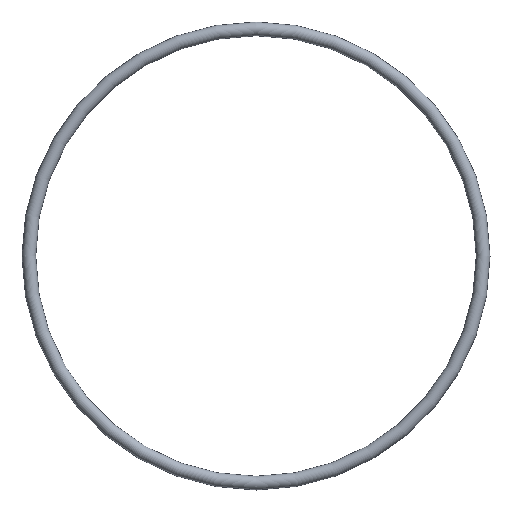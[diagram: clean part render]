
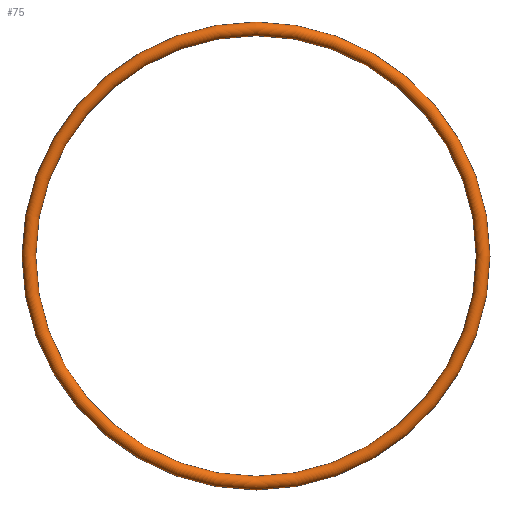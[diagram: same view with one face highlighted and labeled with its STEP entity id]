
A CAD part, front view. The second image highlights one B-rep face of the part: STEP entity #75.
In plain terms, the highlighted toroidal (fillet/blend) face has major radius 33 mm and minor radius 1 mm.
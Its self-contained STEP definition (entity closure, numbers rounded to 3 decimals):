
#75 = ADVANCED_FACE( '', ( #77 ), #78, .T. );
#77 = FACE_BOUND( '', #79, .T. );
#78 = TOROIDAL_SURFACE( '', #80, 33., 1. );
#79 = VERTEX_LOOP( '', #81 );
#80 = AXIS2_PLACEMENT_3D( '', #82, #83, #84 );
#81 = VERTEX_POINT( '', #85 );
#82 = CARTESIAN_POINT( '', ( 0., 0., 0. ) );
#83 = DIRECTION( '', ( 0., -1., 0. ) );
#84 = DIRECTION( '', ( 0., 0., -1. ) );
#85 = CARTESIAN_POINT( '', ( 0., 0., -34. ) );
